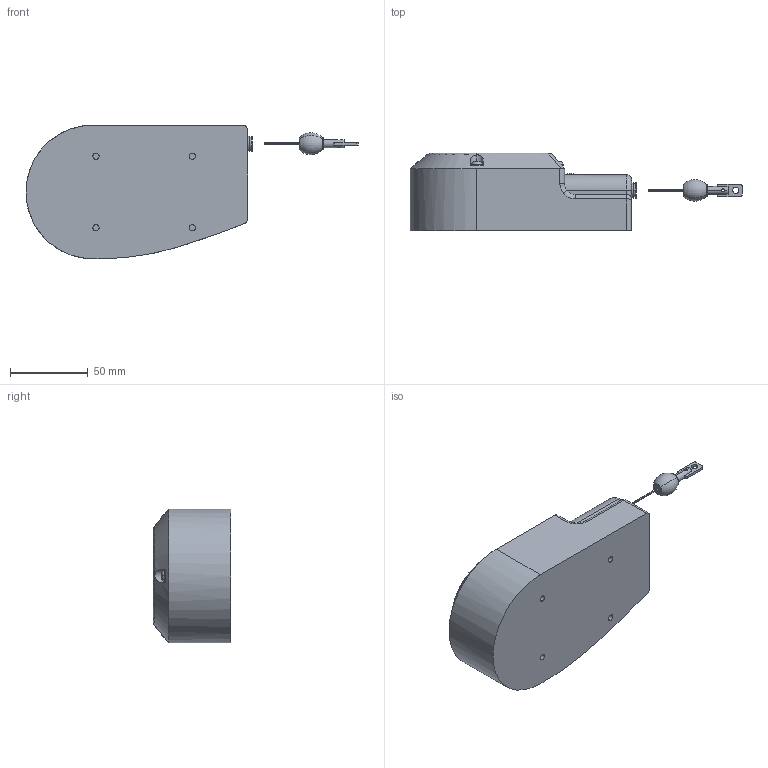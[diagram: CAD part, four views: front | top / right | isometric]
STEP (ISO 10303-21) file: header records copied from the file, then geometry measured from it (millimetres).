
FILE_DESCRIPTION (( 'STEP AP214' ), '1' );
FILE_NAME ('D-1000Z_Assem1.STEP', '2024-06-17T04:29:25', ( '' ), ( '' ), 'SwSTEP 2.0', 'SolidWorks 2023', '' );
FILE_SCHEMA (( 'AUTOMOTIVE_DESIGN' ));
Length unit declared in the file: millimetre
Products named in the file (5): D-1000Z_Assem1; D-1000Z_Part2; D-1000Z_Part1; D-1000Z_Part3; SCREW M4 X6 MM
Assembly tree (7 placements, depth 2):
  D-1000Z_Assem1
    D-1000Z_Part1
    D-1000Z_Part2
    D-1000Z_Part3
    SCREW M4 X6 MM  x4
Bounding box: 213.55 x 50 x 86.05 mm (x, y, z)
Volume: 444458.7 mm3; surface area: 41891.8 mm2
Topology: 8 solids, 9 shells, 232 faces, 568 edges, 373 vertices
Faces by surface type: plane 89, cylinder 74, bspline 25, torus 24, cone 16, sphere 4
Entity records: 6323 total; most frequent: CARTESIAN_POINT 2291, DIRECTION 835, ORIENTED_EDGE 788, EDGE_CURVE 394, AXIS2_PLACEMENT_3D 343, VERTEX_POINT 253, EDGE_LOOP 189, CIRCLE 177
